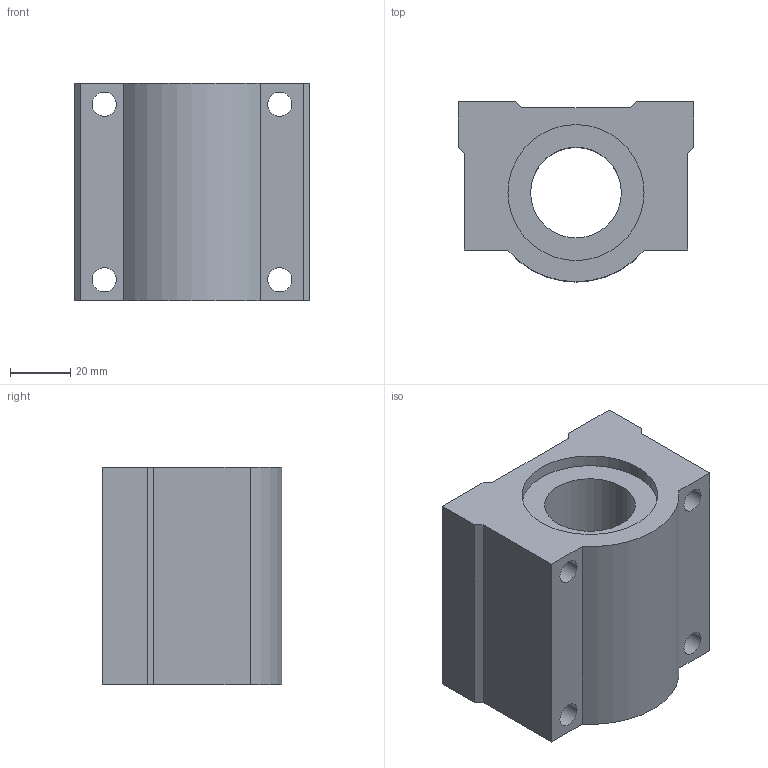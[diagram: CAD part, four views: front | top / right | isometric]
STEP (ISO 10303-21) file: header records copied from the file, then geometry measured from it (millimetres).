
FILE_DESCRIPTION((''),'2;1');
FILE_NAME('C:\Documents and Settings\ｿﾀﾀ蠑ｷ1\ｹﾙﾅﾁ ﾈｭｸ饅\ｺﾎﾇｰﾆﾄﾀﾏ\ﾁｦﾇｰ\SC__UUN\SC30UUN.stp','2005-06-18T16:59:00',('ｿﾀﾀ蠑ｷ1'),(''),'Autodesk Inventor 9','Autodesk Inventor 9','');
FILE_SCHEMA(('AUTOMOTIVE_DESIGN { 1 0 10303 214 1 1 1 1 }'));
Length unit declared in the file: millimetre
Products named in the file (1): SC12UUN
Bounding box: 78 x 59.5 x 72 mm (x, y, z)
Volume: 216098.1 mm3; surface area: 36847.7 mm2
Topology: 1 solids, 1 shells, 32 faces, 84 edges, 56 vertices
Faces by surface type: plane 17, bspline 8, cylinder 7
Entity records: 1145 total; most frequent: CARTESIAN_POINT 309, ORIENTED_EDGE 168, DIRECTION 164, EDGE_CURVE 84, VERTEX_POINT 56, AXIS2_PLACEMENT_3D 55, VECTOR 54, LINE 54
